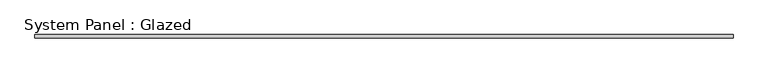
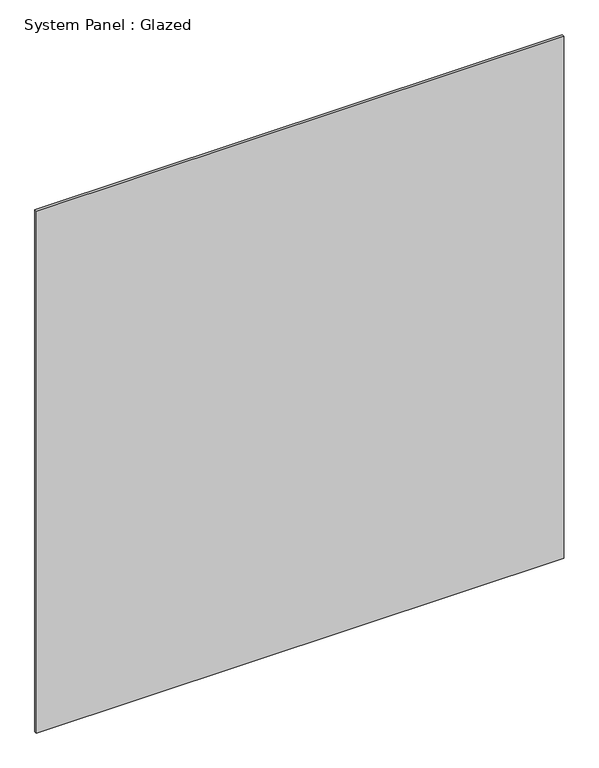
"""IFC4 building model written with IfcOpenShell, lengths in millimetres: plate geometry, System Panel : Glazed."""

from ifc_helpers import new_model, si_unit, origin, origin_with_axes, place, context, project, spatial, polyline, outline, extrude, source, transform, mapped, element, save


def system_panel_glazed_1ea69d37(model_context):
    return source(origin(), model_context, "Body", "SweptSolid", [
        extrude(outline(polyline([(1003.4500909, -10.0), (-1003.4500909, -10.0), (-1003.4500909, 0.0), (1003.4500909, 0.0), (1003.4500909, -10.0)])), origin_with_axes(), (0.0, 0.0, 1.0), 2100.0),
    ])


if __name__ == "__main__":
    model = new_model("IFC4")
    model_context = context("Model", 3, world=origin())
    ifc_project = project(units=[si_unit("LENGTHUNIT", "METRE", prefix="MILLI")], contexts=[model_context])
    site = spatial("IfcSite", under=ifc_project)
    building = spatial("IfcBuilding", under=site)
    placement = place(None, origin())
    system_panel_glazed_shape = system_panel_glazed_1ea69d37(model_context)
    element("IfcPlate", 1, ObjectType="System Panel : Glazed", at=placement, inside=building, context=model_context, shape_type="MappedRepresentation", body=[
        mapped(system_panel_glazed_shape, transform((0.0, 0.0, 0.0), x_axis=(1.0, 0.0, 0.0), y_axis=(0.0, 1.0, 0.0), z_axis=(0.0, 0.0, 1.0))),
    ])
    save(model, "model.ifc")
